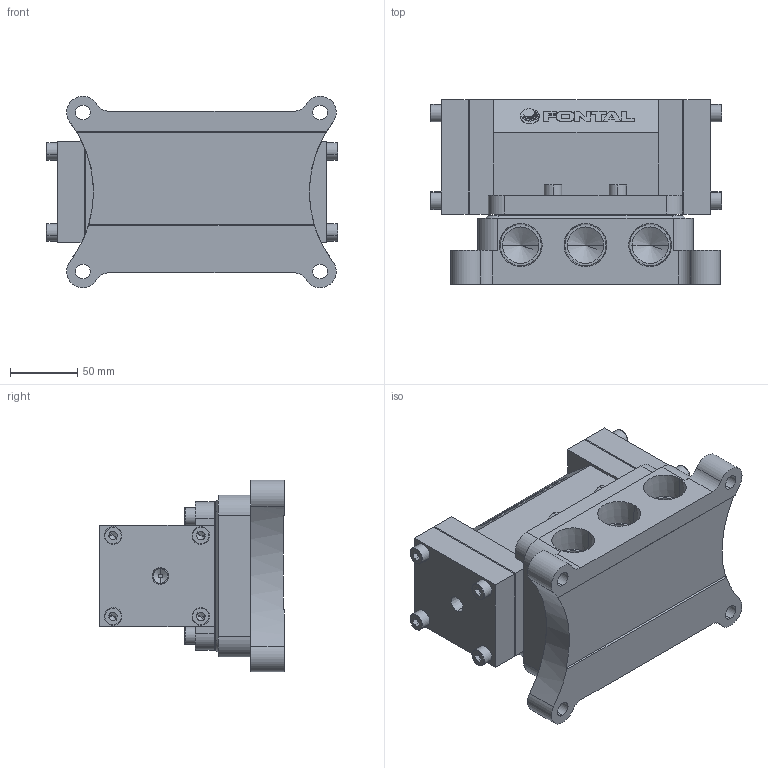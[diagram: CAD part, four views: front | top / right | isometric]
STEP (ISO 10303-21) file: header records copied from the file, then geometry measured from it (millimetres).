
FILE_DESCRIPTION (( 'STEP AP203' ), '1' );
FILE_NAME ('VMD2425-08.STEP', '2016-01-13T18:36:47', ( '' ), ( '' ), 'SwSTEP 2.0', 'SolidWorks 2014', '' );
FILE_SCHEMA (( 'CONFIG_CONTROL_DESIGN' ));
Length unit declared in the file: millimetre
Products named in the file (8): PM25-MARK-24; VMD2425-08; PMS2425-2; PMS2425-1; VMS2425-1; PMS2425-4; ISO 4762 M8; PM25底座-1-08
Assembly tree (20 placements, depth 2):
  VMD2425-08
    PMS2425-1
    PMS2425-2  x2
    ISO 4762 M8  x12
    PMS2425-4
    PM25-MARK-24
    VMS2425-1  x2
    PM25底座-1-08
Bounding box: 216 x 137 x 142 mm (x, y, z)
Volume: 2169899.3 mm3; surface area: 276323.7 mm2
Topology: 26 solids, 26 shells, 600 faces, 1396 edges, 851 vertices
Faces by surface type: plane 327, cylinder 141, cone 76, torus 48, bspline 8
Entity records: 9564 total; most frequent: CARTESIAN_POINT 1589, DIRECTION 1446, ORIENTED_EDGE 1364, EDGE_CURVE 682, AXIS2_PLACEMENT_3D 501, VERTEX_POINT 446, VECTOR 444, LINE 444
